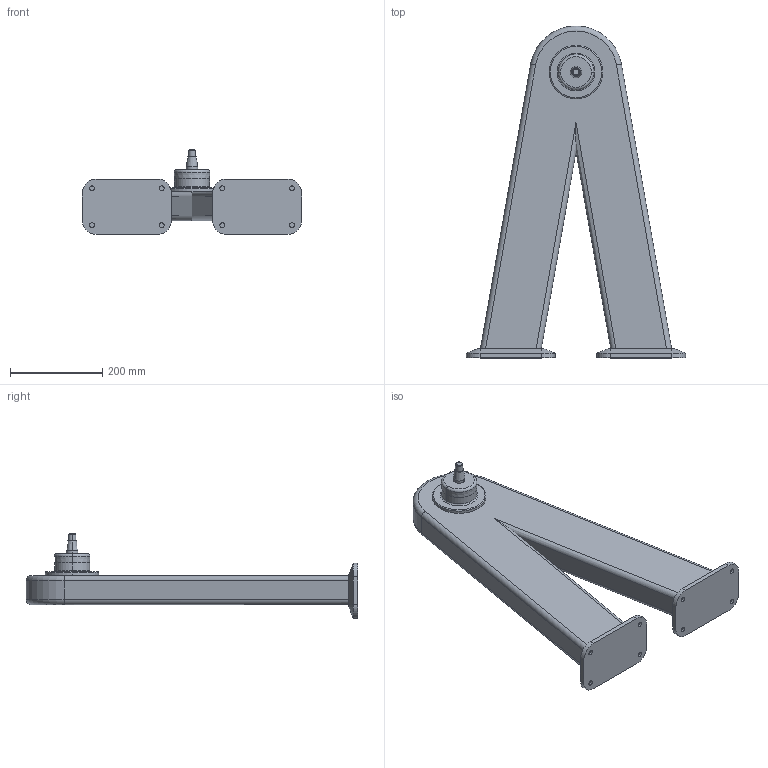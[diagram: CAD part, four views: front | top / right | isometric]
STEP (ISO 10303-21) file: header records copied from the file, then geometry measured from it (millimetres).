
FILE_DESCRIPTION (( 'STEP AP214' ), '1' );
FILE_NAME ('WP850_H620.STEP', '2014-09-08T13:01:42', ( '' ), ( '' ), 'SwSTEP 2.0', 'SolidWorks 2014', '' );
FILE_SCHEMA (( 'AUTOMOTIVE_DESIGN' ));
Length unit declared in the file: millimetre
Products named in the file (1): WP850_H620
Bounding box: 475.67 x 720 x 183.98 mm (x, y, z)
Volume: 11553742.2 mm3; surface area: 568200.2 mm2
Topology: 1 solids, 1 shells, 101 faces, 221 edges, 136 vertices
Faces by surface type: cylinder 41, plane 38, cone 14, torus 8
Entity records: 2795 total; most frequent: DIRECTION 513, CARTESIAN_POINT 489, ORIENTED_EDGE 442, EDGE_CURVE 221, AXIS2_PLACEMENT_3D 200, VERTEX_POINT 136, EDGE_LOOP 115, LINE 113
